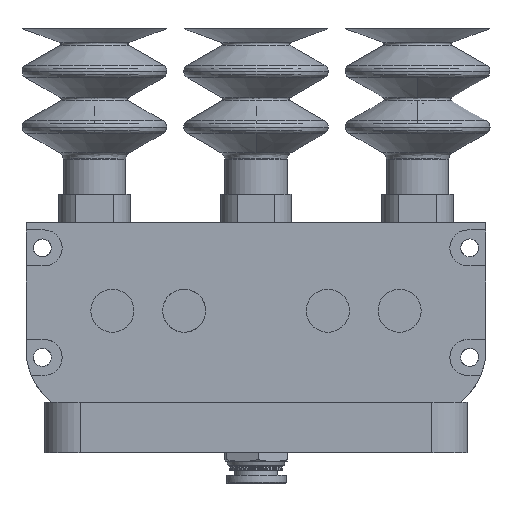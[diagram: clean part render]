
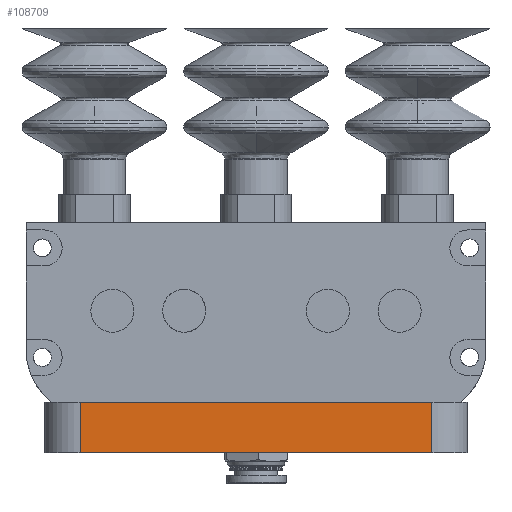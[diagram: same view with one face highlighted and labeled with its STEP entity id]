
A CAD part, left-side view. The second image highlights one B-rep face of the part: STEP entity #108709.
In plain terms, the highlighted planar face has unit normal (-1, 0, 0).
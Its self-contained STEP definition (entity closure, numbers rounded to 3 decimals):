
#1149 = CARTESIAN_POINT ( 'NONE',  ( -210., 59., 0. ) ) ;
#1422 = EDGE_CURVE ( 'NONE', #24811, #95245, #96918, .T. ) ;
#1519 = LINE ( 'NONE', #70148, #106040 ) ;
#7282 = CARTESIAN_POINT ( 'NONE',  ( -210., 49., 0. ) ) ;
#10985 = CARTESIAN_POINT ( 'NONE',  ( -210., 59., 14. ) ) ;
#12194 = DIRECTION ( 'NONE',  ( 1., 0., 0. ) ) ;
#20468 = DIRECTION ( 'NONE',  ( 0., 1., 0. ) ) ;
#24811 = VERTEX_POINT ( 'NONE', #7282 ) ;
#27786 = ORIENTED_EDGE ( 'NONE', *, *, #81894, .F. ) ;
#28778 = ORIENTED_EDGE ( 'NONE', *, *, #95126, .F. ) ;
#29422 = EDGE_LOOP ( 'NONE', ( #39176, #28778, #27786, #41604 ) ) ;
#31805 = DIRECTION ( 'NONE',  ( 0., -1., 0. ) ) ;
#35382 = VERTEX_POINT ( 'NONE', #103943 ) ;
#39176 = ORIENTED_EDGE ( 'NONE', *, *, #1422, .F. ) ;
#41604 = ORIENTED_EDGE ( 'NONE', *, *, #78422, .F. ) ;
#41834 = LINE ( 'NONE', #1149, #58038 ) ;
#42549 = CARTESIAN_POINT ( 'NONE',  ( -210., -49., 0. ) ) ;
#58038 = VECTOR ( 'NONE', #20468, 1000. ) ;
#58765 = PLANE ( 'NONE',  #58819 ) ;
#58819 = AXIS2_PLACEMENT_3D ( 'NONE', #10985, #12194, #115516 ) ;
#63188 = CARTESIAN_POINT ( 'NONE',  ( -210., -49., 14. ) ) ;
#70148 = CARTESIAN_POINT ( 'NONE',  ( -210., 0., 14. ) ) ;
#72008 = LINE ( 'NONE', #63188, #74959 ) ;
#74959 = VECTOR ( 'NONE', #100988, 1000. ) ;
#78422 = EDGE_CURVE ( 'NONE', #95245, #35382, #1519, .T. ) ;
#81894 = EDGE_CURVE ( 'NONE', #35382, #96167, #72008, .T. ) ;
#95126 = EDGE_CURVE ( 'NONE', #96167, #24811, #41834, .T. ) ;
#95245 = VERTEX_POINT ( 'NONE', #117946 ) ;
#96167 = VERTEX_POINT ( 'NONE', #42549 ) ;
#96918 = LINE ( 'NONE', #116528, #108726 ) ;
#100988 = DIRECTION ( 'NONE',  ( 0., 0., -1. ) ) ;
#103943 = CARTESIAN_POINT ( 'NONE',  ( -210., -49., 14. ) ) ;
#106040 = VECTOR ( 'NONE', #31805, 1000. ) ;
#108709 = ADVANCED_FACE ( 'NONE', ( #118542 ), #58765, .F. ) ;
#108726 = VECTOR ( 'NONE', #116122, 1000. ) ;
#115516 = DIRECTION ( 'NONE',  ( 0., 0., -1. ) ) ;
#116122 = DIRECTION ( 'NONE',  ( 0., 0., 1. ) ) ;
#116528 = CARTESIAN_POINT ( 'NONE',  ( -210., 49., 14. ) ) ;
#117946 = CARTESIAN_POINT ( 'NONE',  ( -210., 49., 14. ) ) ;
#118542 = FACE_OUTER_BOUND ( 'NONE', #29422, .T. ) ;
